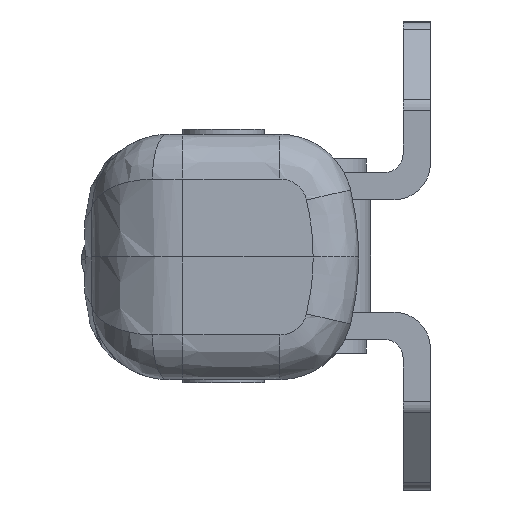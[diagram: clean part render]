
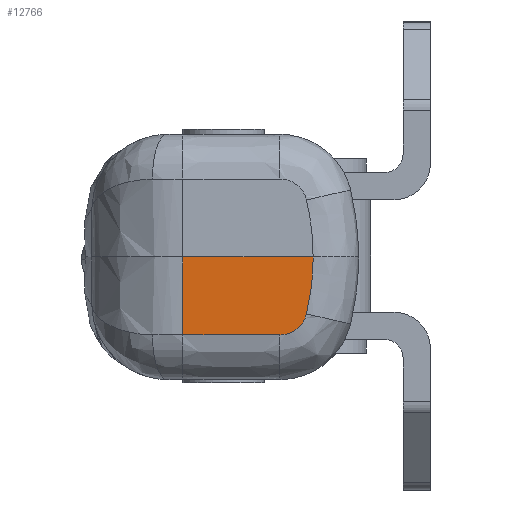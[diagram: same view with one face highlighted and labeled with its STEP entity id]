
A CAD part, front view. The second image highlights one B-rep face of the part: STEP entity #12766.
In plain terms, the highlighted planar face has unit normal (0, -1, -0.018) as drawn and (-0.017, 0, 1) by its records, which use the part's own axes.
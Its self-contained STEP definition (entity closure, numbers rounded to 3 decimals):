
#35 = VERTEX_POINT ( 'NONE', #12313 ) ;
#48 = VERTEX_POINT ( 'NONE', #6939 ) ;
#361 = CARTESIAN_POINT ( 'NONE',  ( 14.401, -184.925, 0. ) ) ;
#651 = CARTESIAN_POINT ( 'NONE',  ( 14.401, -184.925, 0. ) ) ;
#688 = CARTESIAN_POINT ( 'NONE',  ( 6.082, -191.626, -0.145 ) ) ;
#845 = VERTEX_POINT ( 'NONE', #7136 ) ;
#1007 = CARTESIAN_POINT ( 'NONE',  ( 5.855, -190.291, -0.149 ) ) ;
#1258 = CARTESIAN_POINT ( 'NONE',  ( 12.293, -193.953, -0.037 ) ) ;
#1506 = DIRECTION ( 'NONE',  ( 1., 0., 0.017 ) ) ;
#1833 = CARTESIAN_POINT ( 'NONE',  ( 5.855, -190.291, -0.149 ) ) ;
#1899 = FACE_OUTER_BOUND ( 'NONE', #3805, .T. ) ;
#2094 = ORIENTED_EDGE ( 'NONE', *, *, #9157, .F. ) ;
#2408 = EDGE_CURVE ( 'NONE', #3443, #5520, #13005, .T. ) ;
#3443 = VERTEX_POINT ( 'NONE', #5897 ) ;
#3483 = ORIENTED_EDGE ( 'NONE', *, *, #9667, .T. ) ;
#3617 = CARTESIAN_POINT ( 'NONE',  ( 5.855, -190.291, -0.149 ) ) ;
#3776 = EDGE_CURVE ( 'NONE', #845, #35, #5102, .T. ) ;
#3805 = EDGE_LOOP ( 'NONE', ( #3483, #13157, #5291, #2094, #10689 ) ) ;
#4147 = VECTOR ( 'NONE', #7902, 1000. ) ;
#4863 = DIRECTION ( 'NONE',  ( -1., 0.001, -0.017 ) ) ;
#4878 = PLANE ( 'NONE',  #5699 ) ;
#5102 = LINE ( 'NONE', #651, #13902 ) ;
#5291 = ORIENTED_EDGE ( 'NONE', *, *, #7221, .T. ) ;
#5520 = VERTEX_POINT ( 'NONE', #3617 ) ;
#5699 = AXIS2_PLACEMENT_3D ( 'NONE', #361, #8409, #1506 ) ;
#5897 = CARTESIAN_POINT ( 'NONE',  ( 8.163, -193.221, -0.109 ) ) ;
#6203 = B_SPLINE_CURVE_WITH_KNOTS ( 'NONE', 3,
 ( #12705, #13857, #1258, #9300 ),
 .UNSPECIFIED., .F., .F.,
 ( 4, 4 ),
 ( 0., 1. ),
 .UNSPECIFIED. ) ;
#6430 = CARTESIAN_POINT ( 'NONE',  ( 7.506, -193.065, -0.12 ) ) ;
#6939 = CARTESIAN_POINT ( 'NONE',  ( 5.856, -179.652, -0.149 ) ) ;
#7136 = CARTESIAN_POINT ( 'NONE',  ( 14.401, -193.949, 0. ) ) ;
#7221 = EDGE_CURVE ( 'NONE', #35, #48, #7231, .T. ) ;
#7231 = LINE ( 'NONE', #12885, #10306 ) ;
#7561 = CARTESIAN_POINT ( 'NONE',  ( 8.163, -193.221, -0.109 ) ) ;
#7902 = DIRECTION ( 'NONE',  ( 0., 1., 0. ) ) ;
#8409 = DIRECTION ( 'NONE',  ( -0.017, 0., 1. ) ) ;
#8718 = CARTESIAN_POINT ( 'NONE',  ( 5.855, -190.966, -0.149 ) ) ;
#9157 = EDGE_CURVE ( 'NONE', #5520, #48, #13320, .T. ) ;
#9300 = CARTESIAN_POINT ( 'NONE',  ( 14.401, -193.949, 0. ) ) ;
#9667 = EDGE_CURVE ( 'NONE', #3443, #845, #6203, .T. ) ;
#10306 = VECTOR ( 'NONE', #4863, 1000. ) ;
#10689 = ORIENTED_EDGE ( 'NONE', *, *, #2408, .F. ) ;
#11887 = DIRECTION ( 'NONE',  ( 0., 1., 0. ) ) ;
#12313 = CARTESIAN_POINT ( 'NONE',  ( 14.401, -179.662, 0. ) ) ;
#12705 = CARTESIAN_POINT ( 'NONE',  ( 8.163, -193.221, -0.109 ) ) ;
#12766 = ADVANCED_FACE ( 'NONE', ( #1899 ), #4878, .T. ) ;
#12885 = CARTESIAN_POINT ( 'NONE',  ( 5.856, -179.652, -0.149 ) ) ;
#13005 = B_SPLINE_CURVE_WITH_KNOTS ( 'NONE', 3,
 ( #7561, #6430, #14282, #688, #8718, #1833 ),
 .UNSPECIFIED., .F., .F.,
 ( 4, 2, 4 ),
 ( 0., 0.5, 1. ),
 .UNSPECIFIED. ) ;
#13157 = ORIENTED_EDGE ( 'NONE', *, *, #3776, .T. ) ;
#13320 = LINE ( 'NONE', #1007, #4147 ) ;
#13857 = CARTESIAN_POINT ( 'NONE',  ( 10.213, -193.71, -0.073 ) ) ;
#13902 = VECTOR ( 'NONE', #11887, 1000. ) ;
#14282 = CARTESIAN_POINT ( 'NONE',  ( 6.919, -192.689, -0.131 ) ) ;
